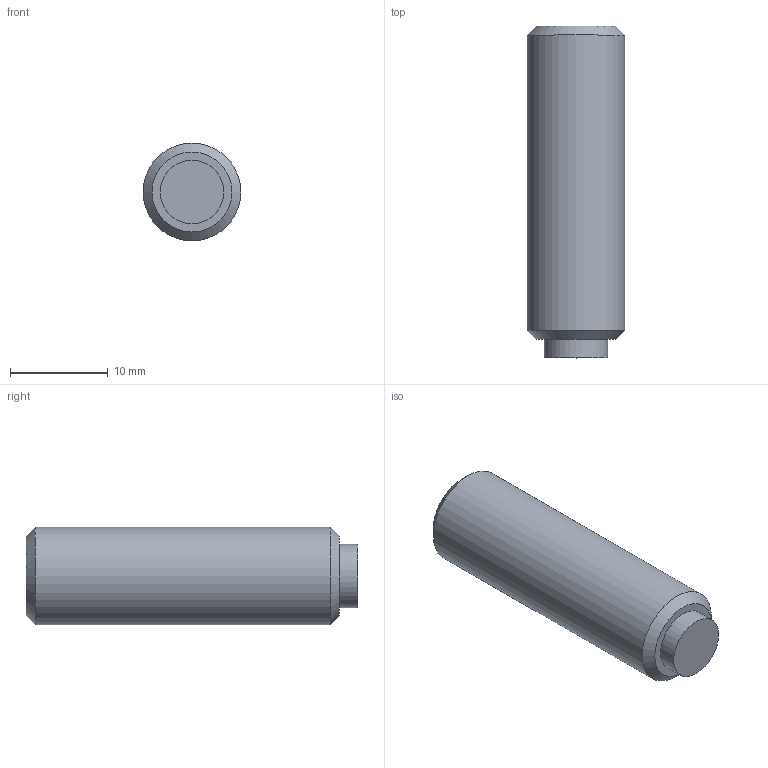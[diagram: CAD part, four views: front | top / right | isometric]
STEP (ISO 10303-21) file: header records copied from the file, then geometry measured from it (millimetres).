
FILE_DESCRIPTION( ( 'STEP AP203' ), '1' );
FILE_NAME( 'C:/Temp/Ganter_Step_05_03_2020/data/3_2/gn913_3/Grub screw GN 913.3-M10-32-KU.stp', '2020-03-13T05:35:40', ( 'License CC BY-ND 4.0' ), ( 'CADENAS' ), ' ', 'PARTsolutions', ' ' );
FILE_SCHEMA( ( 'CONFIG_CONTROL_DESIGN' ) );
Length unit declared in the file: millimetre
Products named in the file (1): _Grub screw GN 913.3-M10-32-KU
Bounding box: 10 x 33.9 x 10 mm (x, y, z)
Volume: 2421.5 mm3; surface area: 1269 mm2
Topology: 1 solids, 1 shells, 14 faces, 28 edges, 18 vertices
Faces by surface type: plane 10, cylinder 2, cone 2
Full cylindrical faces by diameter (mm): 6.5 x1, 10 x1
Entity records: 386 total; most frequent: DIRECTION 60, CARTESIAN_POINT 57, ORIENTED_EDGE 48, EDGE_CURVE 24, AXIS2_PLACEMENT_3D 21, EDGE_LOOP 20, VERTEX_POINT 18, LINE 18
